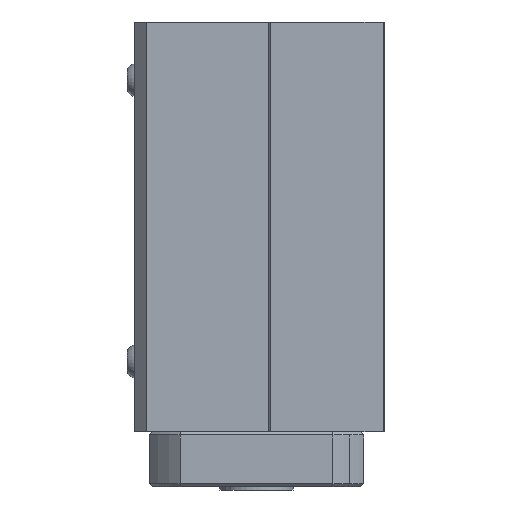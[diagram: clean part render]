
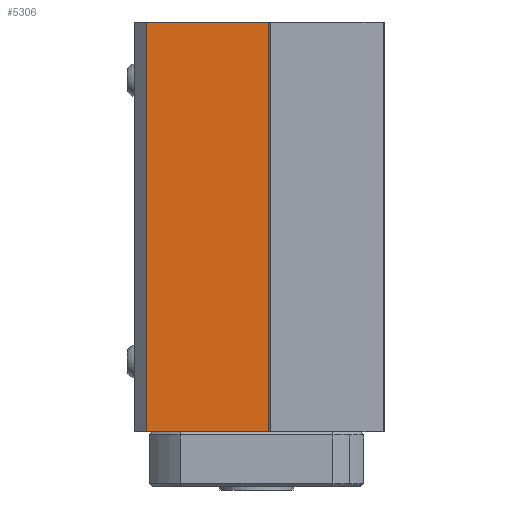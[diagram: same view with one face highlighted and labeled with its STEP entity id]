
A CAD part, left-side view. The second image highlights one B-rep face of the part: STEP entity #5306.
In plain terms, the highlighted planar face has unit normal (-1, 0, 0).
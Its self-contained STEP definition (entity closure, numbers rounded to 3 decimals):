
#406 = ORIENTED_EDGE ( 'NONE', *, *, #11654, .T. ) ;
#941 = PLANE ( 'NONE',  #3566 ) ;
#1247 = LINE ( 'NONE', #12079, #11462 ) ;
#1446 = VECTOR ( 'NONE', #9792, 1000. ) ;
#1653 = EDGE_CURVE ( 'NONE', #8015, #5128, #4279, .T. ) ;
#3112 = CARTESIAN_POINT ( 'NONE',  ( -20., -2., 0. ) ) ;
#3566 = AXIS2_PLACEMENT_3D ( 'NONE', #12839, #5058, #10720 ) ;
#4279 = LINE ( 'NONE', #12969, #1446 ) ;
#5058 = DIRECTION ( 'NONE',  ( -1., 0., 0. ) ) ;
#5128 = VERTEX_POINT ( 'NONE', #10079 ) ;
#5306 = ADVANCED_FACE ( 'NONE', ( #9439 ), #941, .T. ) ;
#5877 = CARTESIAN_POINT ( 'NONE',  ( -20., -2., 0. ) ) ;
#5894 = CARTESIAN_POINT ( 'NONE',  ( -20., 18., -67. ) ) ;
#6385 = VERTEX_POINT ( 'NONE', #5877 ) ;
#6453 = DIRECTION ( 'NONE',  ( 0., -1., 0. ) ) ;
#7626 = VECTOR ( 'NONE', #6453, 1000. ) ;
#7665 = DIRECTION ( 'NONE',  ( 0., 0., 1. ) ) ;
#7669 = LINE ( 'NONE', #13149, #7626 ) ;
#8015 = VERTEX_POINT ( 'NONE', #5894 ) ;
#8310 = VECTOR ( 'NONE', #9690, 1000. ) ;
#8426 = VERTEX_POINT ( 'NONE', #10186 ) ;
#8506 = ORIENTED_EDGE ( 'NONE', *, *, #13035, .F. ) ;
#8798 = ORIENTED_EDGE ( 'NONE', *, *, #1653, .F. ) ;
#9439 = FACE_OUTER_BOUND ( 'NONE', #13509, .T. ) ;
#9690 = DIRECTION ( 'NONE',  ( 0., -1., 0. ) ) ;
#9792 = DIRECTION ( 'NONE',  ( 0., 0., 1. ) ) ;
#10079 = CARTESIAN_POINT ( 'NONE',  ( -20., 18., 0. ) ) ;
#10137 = ORIENTED_EDGE ( 'NONE', *, *, #10754, .T. ) ;
#10186 = CARTESIAN_POINT ( 'NONE',  ( -20., -2., -67. ) ) ;
#10720 = DIRECTION ( 'NONE',  ( 0., 0., 1. ) ) ;
#10754 = EDGE_CURVE ( 'NONE', #8426, #6385, #1247, .T. ) ;
#11462 = VECTOR ( 'NONE', #7665, 1000. ) ;
#11598 = LINE ( 'NONE', #3112, #8310 ) ;
#11654 = EDGE_CURVE ( 'NONE', #8015, #8426, #7669, .T. ) ;
#12079 = CARTESIAN_POINT ( 'NONE',  ( -20., -2., -67. ) ) ;
#12839 = CARTESIAN_POINT ( 'NONE',  ( -20., -2., -67. ) ) ;
#12969 = CARTESIAN_POINT ( 'NONE',  ( -20., 18., -67. ) ) ;
#13035 = EDGE_CURVE ( 'NONE', #5128, #6385, #11598, .T. ) ;
#13149 = CARTESIAN_POINT ( 'NONE',  ( -20., -2., -67. ) ) ;
#13509 = EDGE_LOOP ( 'NONE', ( #8506, #8798, #406, #10137 ) ) ;
